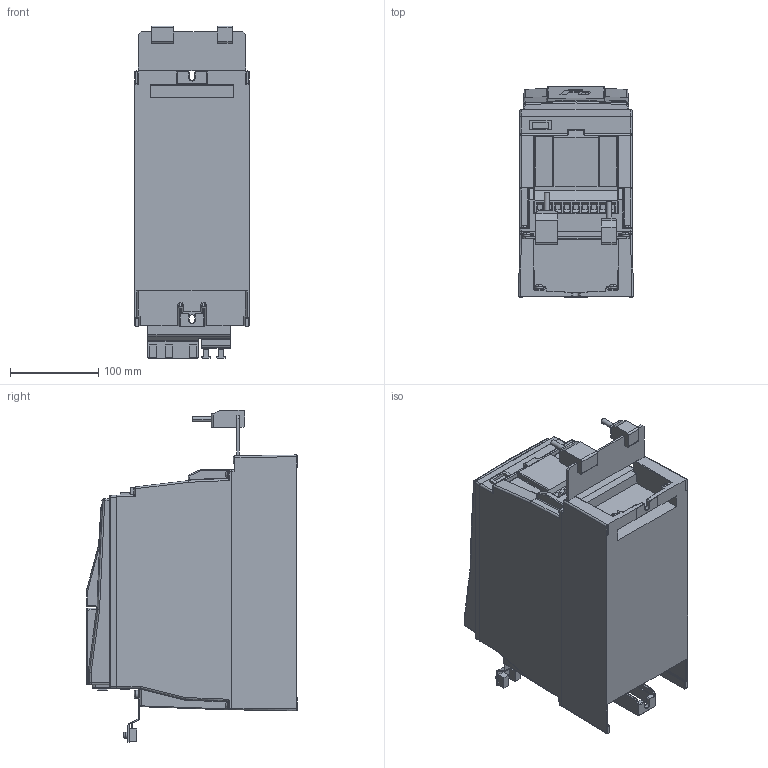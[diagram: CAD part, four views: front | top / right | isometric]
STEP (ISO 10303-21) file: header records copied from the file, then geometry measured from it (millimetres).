
FILE_DESCRIPTION (( 'STEP AP214' ), '1' );
FILE_NAME ('F6-2TR0-P051.STEP', '2020-11-30T13:09:41', ( '' ), ( '' ), 'SwSTEP 2.0', 'SolidWorks 2019', '' );
FILE_SCHEMA (( 'AUTOMOTIVE_DESIGN' ));
Length unit declared in the file: millimetre
Products named in the file (1): F6-2TR0-P051
Bounding box: 130 x 238.4 x 376.5 mm (x, y, z)
Volume: 7090733.8 mm3; surface area: 331070 mm2
Topology: 4 solids, 4 shells, 1494 faces, 3700 edges, 2205 vertices
Faces by surface type: plane 675, cylinder 425, bspline 245, torus 65, sphere 60, cone 24
Entity records: 52208 total; most frequent: CARTESIAN_POINT 18654, ORIENTED_EDGE 7256, DIRECTION 6264, EDGE_CURVE 3628, VERTEX_POINT 2205, AXIS2_PLACEMENT_3D 2112, LINE 2040, VECTOR 2040
